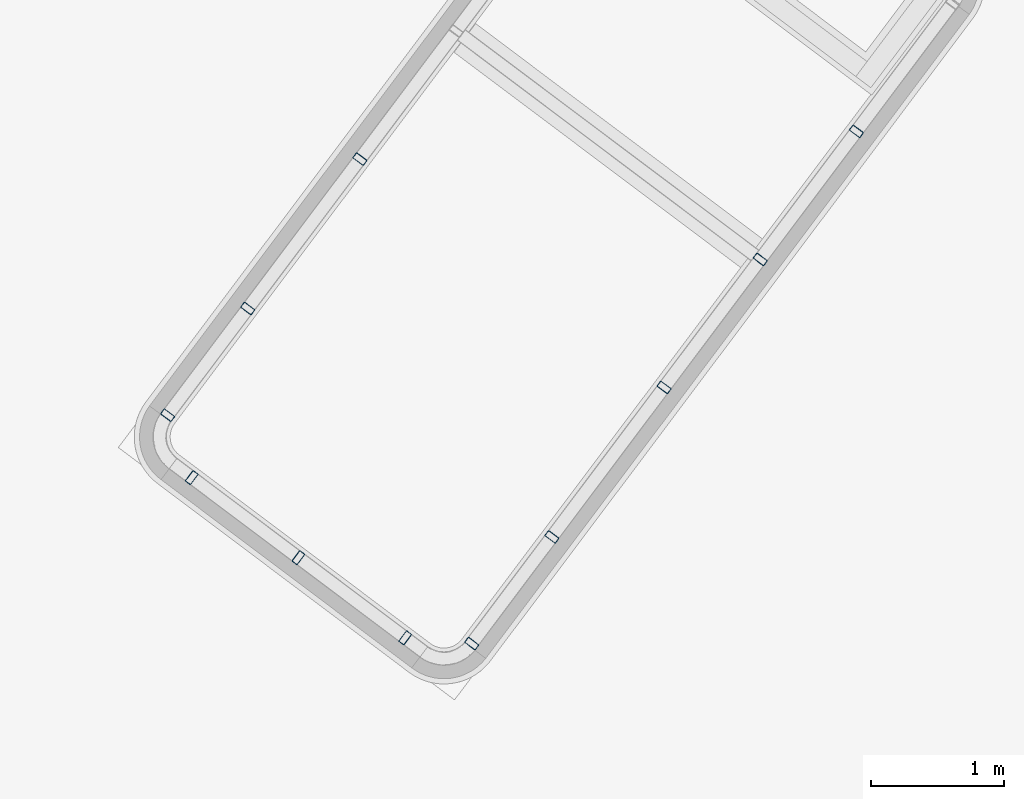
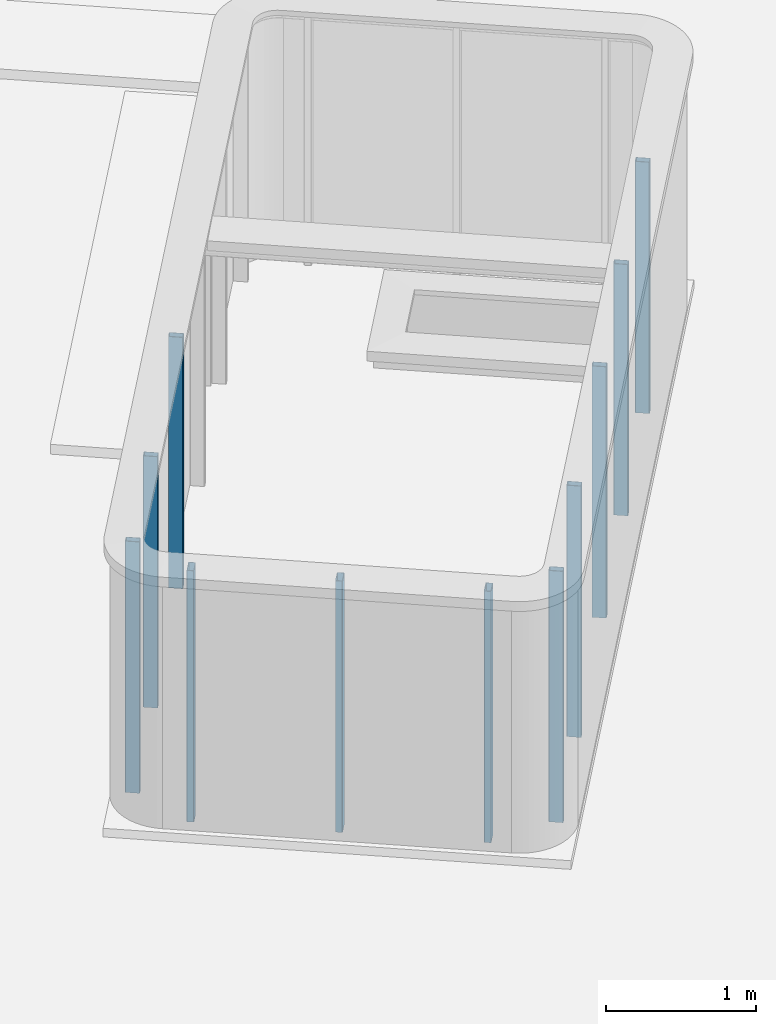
# One storey, part 4 of 28: 11 columns.
"""IFC2X3 building model written with IfcOpenShell, lengths in metres."""

from ifc_helpers import new_model, entity, si_unit, converted_unit, derived_unit, direction, frame, frame_2d, origin, place, context, subcontext, project, spatial, polyline, circle_curve, parameter, trimmed, segment, composite_curve, outline, extrude, source, transform, mapped, material, type_object, type_shapes, element, save


model = new_model("IFC2X3")

# Units and contexts
model_context = context("Model", 3, precision=1e-05, world=origin(), true_north=direction((6.123031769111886e-17, 1.0)))
body_context = subcontext(model_context, "Body", "Model", "MODEL_VIEW")
ifc_project = project(units=[si_unit("LENGTHUNIT", "METRE"), si_unit("AREAUNIT", "SQUARE_METRE"), si_unit("VOLUMEUNIT", "CUBIC_METRE"), converted_unit("PLANEANGLEUNIT", "DEGREE", entity("IfcRatioMeasure", 0.017453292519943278), si_unit("PLANEANGLEUNIT", "RADIAN"), dimensions=[0, 0, 0, 0, 0, 0, 0]), si_unit("MASSUNIT", "GRAM", prefix="KILO"), derived_unit("MASSDENSITYUNIT", [(si_unit("MASSUNIT", "GRAM", prefix="KILO"), 1), (si_unit("LENGTHUNIT", "METRE"), -3)]), derived_unit("IONCONCENTRATIONUNIT", [(si_unit("MASSUNIT", "GRAM", prefix="KILO"), 1), (si_unit("LENGTHUNIT", "METRE"), -3)]), derived_unit("MOMENTOFINERTIAUNIT", [(si_unit("LENGTHUNIT", "METRE"), 4)]), si_unit("TIMEUNIT", "SECOND"), si_unit("FREQUENCYUNIT", "HERTZ"), si_unit("THERMODYNAMICTEMPERATUREUNIT", "DEGREE_CELSIUS"), derived_unit("THERMALTRANSMITTANCEUNIT", [(si_unit("MASSUNIT", "GRAM", prefix="KILO"), 1), (si_unit("THERMODYNAMICTEMPERATUREUNIT", "KELVIN"), -1), (si_unit("TIMEUNIT", "SECOND"), -3)]), derived_unit("THERMALCONDUCTANCEUNIT", [(si_unit("MASSUNIT", "GRAM", prefix="KILO"), 1), (si_unit("THERMODYNAMICTEMPERATUREUNIT", "KELVIN"), -1), (si_unit("TIMEUNIT", "SECOND"), -3), (si_unit("LENGTHUNIT", "METRE"), 1)]), derived_unit("VOLUMETRICFLOWRATEUNIT", [(si_unit("LENGTHUNIT", "METRE"), 3), (si_unit("TIMEUNIT", "SECOND"), -1)]), derived_unit("MASSFLOWRATEUNIT", [(si_unit("MASSUNIT", "GRAM", prefix="KILO"), 1), (si_unit("TIMEUNIT", "SECOND"), -1)]), derived_unit("ROTATIONALFREQUENCYUNIT", [(si_unit("TIMEUNIT", "SECOND"), -1)]), si_unit("ELECTRICCURRENTUNIT", "AMPERE"), si_unit("ELECTRICVOLTAGEUNIT", "VOLT"), si_unit("POWERUNIT", "WATT"), si_unit("FORCEUNIT", "NEWTON", prefix="KILO"), si_unit("ILLUMINANCEUNIT", "LUX"), si_unit("LUMINOUSFLUXUNIT", "LUMEN"), si_unit("LUMINOUSINTENSITYUNIT", "CANDELA"), derived_unit("USERDEFINED", [(si_unit("MASSUNIT", "GRAM", prefix="KILO"), -1), (si_unit("LENGTHUNIT", "METRE"), -2), (si_unit("TIMEUNIT", "SECOND"), 3), (si_unit("LUMINOUSFLUXUNIT", "LUMEN"), 1)]), derived_unit("USERDEFINED", [(si_unit("MASSUNIT", "GRAM", prefix="KILO"), 1), (si_unit("TIMEUNIT", "SECOND"), -3), (si_unit("LENGTHUNIT", "METRE"), 3), (si_unit("ELECTRICCURRENTUNIT", "AMPERE"), -2)]), derived_unit("SOUNDPOWERUNIT", [(si_unit("MASSUNIT", "GRAM", prefix="KILO"), 1), (si_unit("TIMEUNIT", "SECOND"), -3), (si_unit("LENGTHUNIT", "METRE"), 2)]), derived_unit("SOUNDPRESSUREUNIT", [(si_unit("MASSUNIT", "GRAM", prefix="KILO"), 1), (si_unit("LENGTHUNIT", "METRE"), -1), (si_unit("TIMEUNIT", "SECOND"), -2)]), derived_unit("LINEARVELOCITYUNIT", [(si_unit("LENGTHUNIT", "METRE"), 1), (si_unit("TIMEUNIT", "SECOND"), -1)]), si_unit("PRESSUREUNIT", "PASCAL"), derived_unit("USERDEFINED", [(si_unit("MASSUNIT", "GRAM", prefix="KILO"), 1), (si_unit("LENGTHUNIT", "METRE"), -2), (si_unit("TIMEUNIT", "SECOND"), -2)]), derived_unit("LINEARFORCEUNIT", [(si_unit("MASSUNIT", "GRAM", prefix="KILO"), 1), (si_unit("TIMEUNIT", "SECOND"), -2)]), derived_unit("PLANARFORCEUNIT", [(si_unit("MASSUNIT", "GRAM", prefix="KILO"), 1), (si_unit("LENGTHUNIT", "METRE"), -1), (si_unit("TIMEUNIT", "SECOND"), -2)]), derived_unit("SPECIFICHEATCAPACITYUNIT", [(si_unit("THERMODYNAMICTEMPERATUREUNIT", "KELVIN"), -1), (si_unit("LENGTHUNIT", "METRE"), 2), (si_unit("TIMEUNIT", "SECOND"), -2)]), derived_unit("HEATINGVALUEUNIT", [(si_unit("LENGTHUNIT", "METRE"), 2), (si_unit("TIMEUNIT", "SECOND"), -2)]), derived_unit("VAPORPERMEABILITYUNIT", [(si_unit("LENGTHUNIT", "METRE"), -1), (si_unit("TIMEUNIT", "SECOND"), 1)]), derived_unit("DYNAMICVISCOSITYUNIT", [(si_unit("MASSUNIT", "GRAM", prefix="KILO"), 1), (si_unit("TIMEUNIT", "SECOND"), -1), (si_unit("LENGTHUNIT", "METRE"), -1)]), derived_unit("THERMALEXPANSIONCOEFFICIENTUNIT", [(si_unit("THERMODYNAMICTEMPERATUREUNIT", "KELVIN"), -1)]), derived_unit("MODULUSOFELASTICITYUNIT", [(si_unit("MASSUNIT", "GRAM", prefix="KILO"), 1), (si_unit("LENGTHUNIT", "METRE"), -1), (si_unit("TIMEUNIT", "SECOND"), -2)]), derived_unit("ISOTHERMALMOISTURECAPACITYUNIT", [(si_unit("LENGTHUNIT", "METRE"), 3), (si_unit("MASSUNIT", "GRAM", prefix="KILO"), -1)]), derived_unit("MOISTUREDIFFUSIVITYUNIT", [(si_unit("TIMEUNIT", "SECOND"), -1), (si_unit("LENGTHUNIT", "METRE"), 2)])], contexts=[model_context])

# Site, building, storey
site_placement = place(None, frame((0.0, 0.0, 235.0), z_axis=(0.0, 0.0, 1.0), x_axis=(-0.7996477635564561, 0.6004693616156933, 0.0)))
site = spatial("IfcSite", under=ifc_project, at=site_placement, Name="Default", CompositionType="ELEMENT")
building_placement = place(site_placement, origin())
building = spatial("IfcBuilding", under=site, at=building_placement, CompositionType="ELEMENT")
storey_placement = place(building_placement, frame((0.0, 0.0, 3.400000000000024)))
storey = spatial("IfcBuildingStorey", under=building, at=storey_placement, Name="PC- Coberta STR", CompositionType="ELEMENT", Elevation=3.400000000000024)

# Columns
ifc_material = material(Name="Metal - Acero - 345 MPa")
column_type = type_object("IfcColumnType", Name="STR- P- Acer- RHS- Rectangular- T1:100 x 50RHS", PredefinedType="COLUMN", material=ifc_material)
shared_shape = source(origin(), body_context, "Body", "SweptSolid", [
    extrude(outline(composite_curve([segment(polyline([(-0.01900000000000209, -0.04999999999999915), (0.019000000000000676, -0.04999999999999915)]), True, "CONTINUOUS"), segment(trimmed(circle_curve(frame_2d((0.019000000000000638, -0.04400000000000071), x_axis=(-1.0, 0.0)), 0.005999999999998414), [parameter(90.00000000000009)], [parameter(180.0000000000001)], True, "PARAMETER"), True, "CONTINUOUS"), segment(polyline([(0.024999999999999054, -0.044000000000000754), (0.02499999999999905, 0.044000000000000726)]), True, "CONTINUOUS"), segment(trimmed(circle_curve(frame_2d((0.018999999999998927, 0.044000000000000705), x_axis=(-1.0, 0.0)), 0.006000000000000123), [parameter(179.9999999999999)], [parameter(269.99999999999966)], True, "PARAMETER"), True, "CONTINUOUS"), segment(polyline([(0.018999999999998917, 0.05000000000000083), (-0.01899999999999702, 0.050000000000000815)]), True, "CONTINUOUS"), segment(trimmed(circle_curve(frame_2d((-0.018999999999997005, 0.043999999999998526), x_axis=(-1.0, 0.0)), 0.006000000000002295), [parameter(269.99999999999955)], [parameter(359.9999999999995)], True, "PARAMETER"), True, "CONTINUOUS"), segment(polyline([(-0.024999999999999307, 0.04399999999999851), (-0.024999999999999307, -0.04400000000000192)]), True, "CONTINUOUS"), segment(trimmed(circle_curve(frame_2d((-0.019000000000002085, -0.04400000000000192), x_axis=(-1.0, 0.0)), 0.005999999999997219), [parameter(359.9999999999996)], [parameter(89.99999999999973)], True, "PARAMETER"), True, "CONTINUOUS")], self_intersect=False), holes=[composite_curve([segment(trimmed(circle_curve(frame_2d((-0.019000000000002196, -0.044000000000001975), x_axis=(-1.0, 0.0)), 0.0029999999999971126), [parameter(0.0)], [parameter(90.00000000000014)], True, "PARAMETER"), False, "CONTINUOUS"), segment(polyline([(-0.021999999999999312, -0.044000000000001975), (-0.021999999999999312, 0.04400000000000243)]), True, "CONTINUOUS"), segment(trimmed(circle_curve(frame_2d((-0.019000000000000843, 0.04400000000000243), x_axis=(-1.0, 0.0)), 0.00299999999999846), [parameter(269.99999999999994)], [parameter(0.0)], True, "PARAMETER"), False, "CONTINUOUS"), segment(polyline([(-0.01900000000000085, 0.0470000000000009), (0.01899999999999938, 0.04700000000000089)]), True, "CONTINUOUS"), segment(trimmed(circle_curve(frame_2d((0.018999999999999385, 0.04399999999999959), x_axis=(-1.0, 0.0)), 0.0030000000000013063), [parameter(179.99999999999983)], [parameter(270.0)], True, "PARAMETER"), False, "CONTINUOUS"), segment(polyline([(0.022000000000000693, 0.04399999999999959), (0.022000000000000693, -0.04399999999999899)]), True, "CONTINUOUS"), segment(trimmed(circle_curve(frame_2d((0.019000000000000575, -0.043999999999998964), x_axis=(-1.0, 0.0)), 0.0030000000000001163), [parameter(90.00000000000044)], [parameter(180.0000000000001)], True, "PARAMETER"), False, "CONTINUOUS"), segment(polyline([(0.019000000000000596, -0.04699999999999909), (-0.019000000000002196, -0.04699999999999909)]), True, "CONTINUOUS")], self_intersect=False)]), frame((0.02658749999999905, 0.051587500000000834, 0.0), z_axis=(0.0, 0.0, 1.0), x_axis=(-1.0, 0.0, 0.0)), (0.0, 0.0, 1.0), 2.05),
])
type_shapes(column_type, [shared_shape])
for number, where, z_axis, x_axis, name in (
    (1, (18.658458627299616, -32.26767308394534, 0.4), (0.0, 0.0, 1.0), (0.0, -1.0, 0.0), "STR- P- Acer- RHS- Rectangular- T1:100 x 50RHS"),
    (2, (18.658458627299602, -33.667673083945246, 0.4), (0.0, 0.0, 1.0), (0.0, -1.0, 0.0), "STR- P- Acer- RHS- Rectangular- T1:100 x 50RHS"),
    (3, (18.311633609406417, -30.977673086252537, 0.4), (0.0, 0.0, 1.0), (-1.0, 0.0, 0.0), "STR- P- Acer- RHS- Rectangular- T1:100 x 50RHS"),
    (4, (17.31163360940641, -30.977673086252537, 0.4), (0.0, 0.0, 1.0), (-1.0, 0.0, 0.0), "STR- P- Acer- RHS- Rectangular- T1:100 x 50RHS"),
    (5, (16.311633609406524, -30.97767308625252, 0.4), (0.0, 0.0, 1.0), (-1.0, 0.0, 0.0), "STR- P- Acer- RHS- Rectangular- T1:100 x 50RHS"),
    (6, (18.65845862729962, -31.26767308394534, 0.4), (0.0, 0.0, 1.0), (0.0, -1.0, 0.0), "STR- P- Acer- RHS- Rectangular- T1:100 x 50RHS"),
    (7, (15.80845855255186, -32.26767308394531, 0.4), (0.0, 0.0, 1.0), (0.0, -1.0, 0.0), "STR- P- Acer- RHS- Rectangular- T1:100 x 50RHS"),
    (8, (15.808458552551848, -33.66767308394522, 0.4), (0.0, 0.0, 1.0), (0.0, -1.0, 0.0), "STR- P- Acer- RHS- Rectangular- T1:100 x 50RHS"),
    (9, (15.808458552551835, -34.867673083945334, 0.4), (0.0, 0.0, 1.0), (0.0, -1.0, 0.0), "STR- P- Acer- RHS- Rectangular- T1:100 x 50RHS"),
    (10, (15.808458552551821, -36.06767308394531, 0.4), (0.0, 0.0, 1.0), (0.0, -1.0, 0.0), "STR- P- Acer- RHS- Rectangular- T1:100 x 50RHS"),
    (11, (15.808458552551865, -31.267673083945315, 0.4), (0.0, 0.0, 1.0), (0.0, -1.0, 0.0), "STR- P- Acer- RHS- Rectangular- T1:100 x 50RHS"),
):
    element("IfcColumn", number, at=place(storey_placement, frame(where, z_axis=z_axis, x_axis=x_axis)), inside=storey, type_object=column_type, material=ifc_material, Name=name, ObjectType="STR- P- Acer- RHS- Rectangular- T1:100 x 50RHS", context=body_context, shape_type="MappedRepresentation", body=[
        mapped(shared_shape, transform((0.0, 0.0, 0.0), scale=1.0)),
    ])

save(model, "model.ifc")
